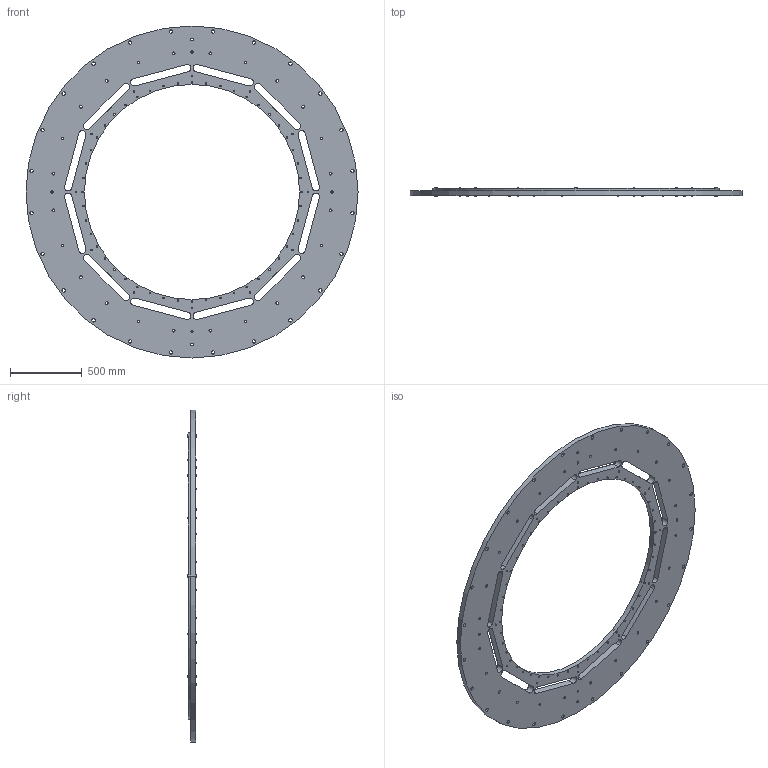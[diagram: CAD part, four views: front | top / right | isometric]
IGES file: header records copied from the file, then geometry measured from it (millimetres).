
Start section:  PTC IGES file: assembly_flange.igs
Global section: file name: assembly_flange.igs; native system: Pro/ENGINEER by Parametric Technology Corporation; preprocessor: 1999260; author: oshatz; organization: Unknown; date: 000922.101516; units: millimetre
Bounding box: 2320 x 57.88 x 2320 mm (x, y, z)
Surface area: 5851787.7 mm2 (no closed solid volume)
Topology: 0 solids, 0 shells, 760 faces, 4842 edges, 5212 vertices
Faces by surface type: revolution 576, bspline 184
